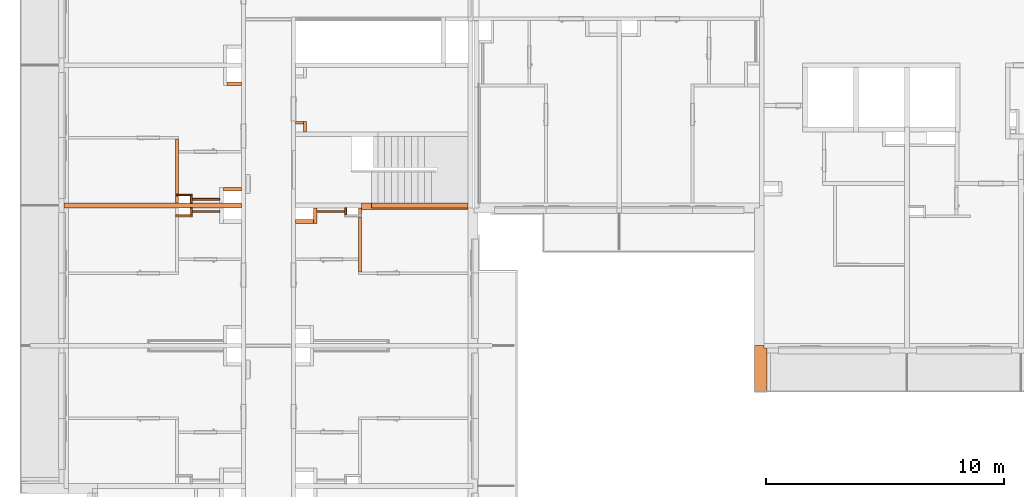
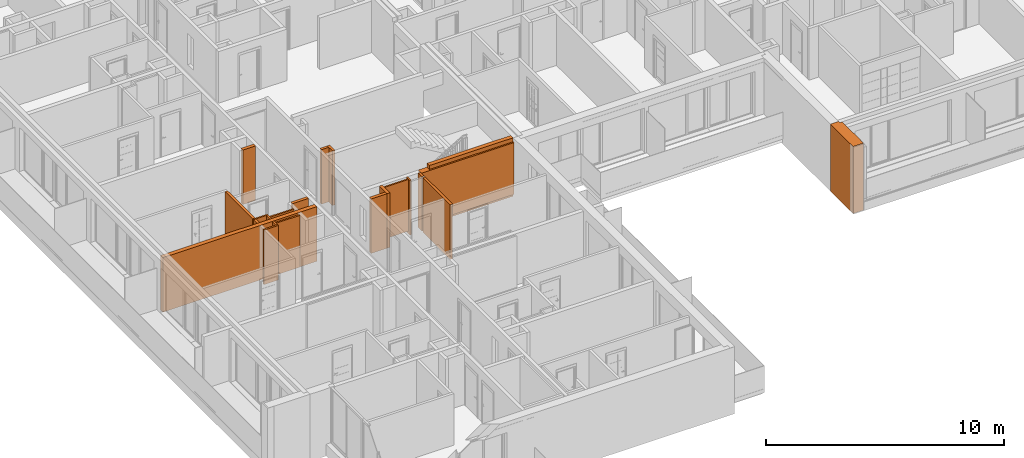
# One storey, part 54 of 67: 19 proxies, 1 opening.
"""IFC2X3 building model written with IfcOpenShell, lengths in millimetres."""

import ifcopenshell
import ifcopenshell.guid

model = None  # the IFC model being written
_history = None  # IfcOwnerHistory: only IFC2X3 demands one
_inside = {}  # id of a spatial element -> (the spatial element, [elements in it])
_under = {}  # id of a project, library or spatial element -> (it, [spatial elements below it])
_declared = {}  # id of a project -> (the project, [libraries it declares])
_typed = {}  # id of a type object -> (the type object, [elements of that type])
_made_of = {}  # id of a material, layer set ... -> (it, [elements and type objects made of it])


def new_model(schema):
    """Start an empty IFC model of exactly this schema.

    Asked for "IFC4X3", IfcOpenShell would pick the latest addendum, in which some entities
    have other attributes; the version numbers below select the first issue.
    IFC2X3 requires an IfcOwnerHistory on every rooted entity: one is made here for all.
    """
    global model, _history
    if schema == "IFC4X3":
        model = ifcopenshell.file(schema_version=(4, 3, 0, 0))
    else:
        model = ifcopenshell.file(schema=schema)
    _inside.clear()
    _under.clear()
    _declared.clear()
    _typed.clear()
    _made_of.clear()
    _history = None
    if model.schema == "IFC2X3":
        org = make("IfcOrganization", Name="unknown")
        user = make(
            "IfcPersonAndOrganization",
            ThePerson=make("IfcPerson", FamilyName="unknown"),
            TheOrganization=org,
        )
        app = make(
            "IfcApplication",
            ApplicationDeveloper=org,
            Version="unknown",
            ApplicationFullName="unknown",
            ApplicationIdentifier="unknown",
        )
        _history = make(
            "IfcOwnerHistory",
            OwningUser=user,
            OwningApplication=app,
            ChangeAction="ADDED",
            CreationDate=0,
        )
    return model


def make(cls, **values):
    """One entity of the class cls with the attributes given. An attribute that is None is left unset."""
    return model.create_entity(
        cls, **{name: value for name, value in values.items() if value is not None}
    )


def entity(cls, *values):
    """Any entity or typed value of the class cls, its attributes in the order of the schema. None: left unset."""
    e = model.create_entity(cls)
    for i, value in enumerate(values):
        if value is not None:
            e[i] = value
    return e


def rooted(cls, **values):
    """An entity with a GlobalId (a new one), such as an element, a storey or a relation."""
    return make(cls, GlobalId=ifcopenshell.guid.new(), OwnerHistory=_history, **values)


def si_unit(unit_type, name, prefix=None):
    """IfcSIUnit, for example si_unit("LENGTHUNIT", "METRE", prefix="MILLI")."""
    return make("IfcSIUnit", UnitType=unit_type, Prefix=prefix, Name=name)


def converted_unit(unit_type, name, factor, base, dimensions=None, offset=None):
    """IfcConversionBasedUnit, such as the inch: factor (a typed value) times the base unit."""
    return make(
        "IfcConversionBasedUnit"
        if offset is None
        else "IfcConversionBasedUnitWithOffset",
        ConversionOffset=offset,
        Dimensions=None
        if dimensions is None
        else entity("IfcDimensionalExponents", *dimensions),
        UnitType=unit_type,
        Name=name,
        ConversionFactor=make(
            "IfcMeasureWithUnit", ValueComponent=factor, UnitComponent=base
        ),
    )


def derived_unit(unit_type, elements):
    """IfcDerivedUnit: a product of units, each with its exponent."""
    return make(
        "IfcDerivedUnit",
        Elements=[
            make("IfcDerivedUnitElement", Unit=unit, Exponent=power)
            for unit, power in elements
        ],
        UnitType=unit_type,
    )


def money_unit(currency):
    """IfcMonetaryUnit."""
    return make("IfcMonetaryUnit", Currency=currency)


def assignment(units):
    """IfcUnitAssignment: the units of a project."""
    return None if units is None else make("IfcUnitAssignment", Units=units)


def point(xyz):
    """IfcCartesianPoint."""
    return None if xyz is None else make("IfcCartesianPoint", Coordinates=xyz)


def direction(xyz):
    """IfcDirection."""
    return None if xyz is None else make("IfcDirection", DirectionRatios=xyz)


def frame(location, z_axis=None, x_axis=None):
    """IfcAxis2Placement3D, a coordinate frame: its origin and axes. An axis left out is left unset."""
    return make(
        "IfcAxis2Placement3D",
        Location=point(location),
        Axis=direction(z_axis),
        RefDirection=direction(x_axis),
    )


def frame_2d(location, x_axis=None):
    """IfcAxis2Placement2D, a coordinate frame in the plane: its origin and x axis."""
    return make(
        "IfcAxis2Placement2D", Location=point(location), RefDirection=direction(x_axis)
    )


def origin_with_axes():
    """The frame at (0, 0, 0) with the z axis (0, 0, 1) and the x axis (1, 0, 0) written out."""
    return frame((0.0, 0.0, 0.0), z_axis=(0.0, 0.0, 1.0), x_axis=(1.0, 0.0, 0.0))


def origin_2d_with_axis():
    """The frame at (0, 0) in the plane with the x axis (1, 0) written out."""
    return frame_2d((0.0, 0.0), x_axis=(1.0, 0.0))


def place(relative_to, where):
    """IfcLocalPlacement: puts the frame where relative to a parent placement (None: the world)."""
    return make(
        "IfcLocalPlacement", PlacementRelTo=relative_to, RelativePlacement=where
    )


def context(
    kind, dimensions, precision=None, world=None, true_north=None, identifier=None
):
    """IfcGeometricRepresentationContext, for example the 3D "Model" context."""
    return make(
        "IfcGeometricRepresentationContext",
        ContextIdentifier=identifier,
        ContextType=kind,
        CoordinateSpaceDimension=dimensions,
        Precision=precision,
        WorldCoordinateSystem=world,
        TrueNorth=true_north,
    )


def subcontext(parent, identifier, kind, view, scale=None):
    """IfcGeometricRepresentationSubContext, for example "Body" below "Model"."""
    return make(
        "IfcGeometricRepresentationSubContext",
        ContextIdentifier=identifier,
        ContextType=kind,
        ParentContext=parent,
        TargetScale=scale,
        TargetView=view,
    )


def project(units=None, contexts=None):
    """IfcProject with its units and contexts."""
    return rooted(
        "IfcProject",
        Name="project",
        RepresentationContexts=contexts,
        UnitsInContext=assignment(units),
    )


def spatial(cls, under=None, at=None, **own):
    """A site, building, storey or space (cls), placed at a placement, below another one or the project."""
    s = rooted(cls, ObjectPlacement=at, **own)
    if under is not None:
        _under.setdefault(under.id(), (under, []))[1].append(s)
    return s


def profile(cls, at=None, kind="AREA", **sizes):
    """A parametric profile (cls). Its sizes go by their IFC names, for example OverallWidth=200.0."""
    return make(cls, ProfileType=kind, Position=at, **sizes)


def rectangle(**sizes):
    """IfcRectangleProfileDef."""
    return profile("IfcRectangleProfileDef", **sizes)


def extrude(swept, where, along, depth):
    """IfcExtrudedAreaSolid: the profile swept, set in the frame where, extruded along a direction by depth."""
    return make(
        "IfcExtrudedAreaSolid",
        SweptArea=swept,
        Position=where,
        ExtrudedDirection=direction(along),
        Depth=depth,
    )


def faces_of(points, faces, orient=None, outer=None):
    """IfcFace entities. A face is a list of loops; a loop is a list of indices into points, from 0.

    orient and outer hold one flag for each loop. By default every Orientation is true, the
    first loop of a face is its IfcFaceOuterBound and the others are IfcFaceBound.
    """
    made = []
    for i, loops in enumerate(faces):
        bounds = []
        for j, loop in enumerate(loops):
            is_outer = j == 0 if outer is None else outer[i][j]
            bounds.append(
                make(
                    "IfcFaceOuterBound" if is_outer else "IfcFaceBound",
                    Bound=make("IfcPolyLoop", Polygon=[points[k] for k in loop]),
                    Orientation=True if orient is None else orient[i][j],
                )
            )
        made.append(make("IfcFace", Bounds=bounds))
    return made


def faceted_brep(points, faces, orient=None, outer=None, voids=None):
    """IfcFacetedBrep: a solid bounded by flat faces; with voids (closed shells), ...WithVoids."""
    shared = [point(p) for p in points]
    hull = make("IfcClosedShell", CfsFaces=faces_of(shared, faces, orient, outer))
    if voids is None:
        return make("IfcFacetedBrep", Outer=hull)
    return make(
        "IfcFacetedBrepWithVoids",
        Outer=hull,
        Voids=[
            make(cls, CfsFaces=faces_of(shared, fs, o, b)) for cls, fs, o, b in voids
        ],
    )


def shape(context_of_items, identifier, shape_type, items):
    """IfcShapeRepresentation: the items that make up one representation, for example the "Body"."""
    return make(
        "IfcShapeRepresentation",
        ContextOfItems=context_of_items,
        RepresentationIdentifier=identifier,
        RepresentationType=shape_type,
        Items=items,
    )


def material(Name=None, Category=None):
    """IfcMaterial."""
    return make("IfcMaterial", Name=Name, Category=Category)


def material_list(materials):
    """IfcMaterialList."""
    return make("IfcMaterialList", Materials=materials)


def made_of(thing, what):
    """Note that an element or type object is made of a material, layer set ...; save() writes the relation."""
    if what is not None:
        _made_of.setdefault(what.id(), (what, []))[1].append(thing)
    return thing


def type_object(cls, material=None, **own):
    """A type object (cls), such as IfcWallType, which elements share."""
    return made_of(rooted(cls, **own), material)


def element(
    cls,
    number,
    at=None,
    inside=None,
    cuts=None,
    type_object=None,
    material=None,
    context=None,
    identifier="Body",
    shape_type=None,
    held_by="IfcProductDefinitionShape",
    body=None,
    shapes=None,
    **own,
):
    """One element of the class cls, such as IfcWall. Its Tag is "e" and its number.

    at: its placement. inside: the storey or other place that contains it. cuts: it is an
    opening in that element (IfcRelVoidsElement). A single representation is given by context,
    identifier, shape_type and body (its items); several are given by shapes. held_by: the class
    of the entity that holds the representations. save() writes the other relations.
    """
    e = rooted(cls, Tag="e%d" % number, ObjectPlacement=at, **own)
    if body is not None:
        shapes = [shape(context, identifier, shape_type, body)]
    if shapes is not None:
        e.Representation = make(held_by, Representations=shapes)
    if inside is not None:
        _inside.setdefault(inside.id(), (inside, []))[1].append(e)
    if cuts is not None:
        rooted(
            "IfcRelVoidsElement", RelatingBuildingElement=cuts, RelatedOpeningElement=e
        )
    if type_object is not None:
        _typed.setdefault(type_object.id(), (type_object, []))[1].append(e)
    return made_of(e, material)


def aggregate(whole, parts):
    """IfcRelAggregates: a whole, such as a stair, and the parts it consists of."""
    return rooted("IfcRelAggregates", RelatingObject=whole, RelatedObjects=parts)


def save(model, path):
    """Write the relations noted so far, then the file.

    IfcRelAggregates (storeys below a building ...), IfcRelContainedInSpatialStructure (elements
    in a storey), IfcRelDefinesByType, IfcRelAssociatesMaterial and IfcRelDeclares: one each for
    every whole, place, type object, material and project.
    """
    for whole, parts in _under.values():
        aggregate(whole, parts)
    for where, things in _inside.values():
        rooted(
            "IfcRelContainedInSpatialStructure",
            RelatedElements=things,
            RelatingStructure=where,
        )
    for kind, things in _typed.values():
        rooted("IfcRelDefinesByType", RelatedObjects=things, RelatingType=kind)
    for what, things in _made_of.values():
        rooted("IfcRelAssociatesMaterial", RelatedObjects=things, RelatingMaterial=what)
    for by, libraries in _declared.values():
        rooted("IfcRelDeclares", RelatingContext=by, RelatedDefinitions=libraries)
    model.write(path)


model = new_model("IFC2X3")

# Units and contexts
model_context = context("Model", 3, precision=0.01, world=origin_with_axes(), true_north=direction((0.34421633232, 0.938890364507)))
body_context = subcontext(model_context, "Body", "Model", "MODEL_VIEW")
ifc_project = project(units=[si_unit("LENGTHUNIT", "METRE", prefix="MILLI"), si_unit("AREAUNIT", "SQUARE_METRE"), si_unit("VOLUMEUNIT", "CUBIC_METRE"), converted_unit("PLANEANGLEUNIT", "DEGREE", entity("IfcPlaneAngleMeasure", 0.0174532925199), si_unit("PLANEANGLEUNIT", "RADIAN"), dimensions=[0, 0, 0, 0, 0, 0, 0]), si_unit("SOLIDANGLEUNIT", "STERADIAN"), money_unit("USD"), converted_unit("TIMEUNIT", "Year", entity("IfcTimeMeasure", 31556926.0), si_unit("TIMEUNIT", "SECOND"), dimensions=[0, 0, 1, 0, 0, 0, 0]), si_unit("MASSUNIT", "GRAM", prefix="KILO"), si_unit("THERMODYNAMICTEMPERATUREUNIT", "DEGREE_CELSIUS"), si_unit("LUMINOUSINTENSITYUNIT", "LUMEN"), si_unit("ENERGYUNIT", "JOULE", prefix="MEGA"), derived_unit("THERMALCONDUCTANCEUNIT", [(si_unit("POWERUNIT", "WATT"), 1), (si_unit("LENGTHUNIT", "METRE"), -1), (si_unit("THERMODYNAMICTEMPERATUREUNIT", "KELVIN"), -1)]), derived_unit("SPECIFICHEATCAPACITYUNIT", [(si_unit("ENERGYUNIT", "JOULE"), 1), (si_unit("MASSUNIT", "GRAM", prefix="KILO"), -1), (si_unit("THERMODYNAMICTEMPERATUREUNIT", "KELVIN"), -1)]), derived_unit("MASSDENSITYUNIT", [(si_unit("MASSUNIT", "GRAM", prefix="KILO"), 1), (si_unit("VOLUMEUNIT", "CUBIC_METRE"), -1)])], contexts=[model_context])

# Site, building, storey
site_placement = place(None, origin_with_axes())
site = spatial("IfcSite", under=ifc_project, at=site_placement, Name="USTRONIE MORSKIE", CompositionType="ELEMENT")
building_placement = place(site_placement, origin_with_axes())
building = spatial("IfcBuilding", under=site, at=building_placement, Name="Budynek", CompositionType="ELEMENT")
storey_placement = place(building_placement, frame((0.0, 0.0, 4000.0), z_axis=(0.0, 0.0, 1.0), x_axis=(1.0, 0.0, 0.0)))
storey = spatial("IfcBuildingStorey", under=building, at=storey_placement, Name="PIĘTRO 1", CompositionType="ELEMENT", Elevation=4000.0)

# Proxies
ifc_material_1 = material(Name="Bloczki silikatowe")
building_element_proxy_type_1 = type_object("IfcBuildingElementProxyType", Name="Bloczki silikatowe 120", PredefinedType="NOTDEFINED")
for number, where, z_axis, x_axis, name in (
    (1, (362417.920919, 726901.199036, -160.0), (0.0, 0.0, 1.0), (0.0, -1.0, 0.0), "SW-04"),
    (2, (354717.920919, 726901.199036, -160.0), (0.0, 0.0, 1.0), (0.0, 1.0, 0.0), "SW-04"),
):
    element("IfcBuildingElementProxy", number, at=place(storey_placement, frame(where, z_axis=z_axis, x_axis=x_axis)), inside=storey, type_object=building_element_proxy_type_1, material=ifc_material_1, Name=name, context=body_context, shape_type="Brep", body=[
        faceted_brep([(2790.01935038, 60.0, 0.0), (2790.01935038, -60.0, 0.0), (480.01915523, -60.0, 0.0), (480.01915523, 60.0, 0.0), (2790.01935038, 60.0, 2800.0), (2790.01935038, -60.0, 2800.0), (480.01915523, -60.0, 2800.0), (480.01915523, 60.0, 2800.0)], [[[0, 1, 2, 3]], [[1, 0, 4, 5]], [[1, 5, 6, 2]], [[7, 3, 2, 6]], [[4, 0, 3, 7]], [[5, 4, 7, 6]]]),
        faceted_brep([(400.01915523, 60.0, 0.0), (400.01915523, -60.0, 0.0), (99.9999999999, -60.0, 0.0), (99.9999999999, 60.0, 0.0), (400.01915523, 60.0, 2800.0), (400.01915523, -60.0, 2800.0), (99.9999999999, -60.0, 2800.0), (99.9999999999, 60.0, 2800.0)], [[[0, 1, 2, 3]], [[1, 0, 4, 5]], [[1, 5, 6, 2]], [[7, 3, 2, 6]], [[4, 0, 3, 7]], [[5, 4, 7, 6]]]),
    ])
proxy_1_placement = place(storey_placement, frame((360047.920919, 729901.198865, -160.0), z_axis=(0.0, 0.0, 1.0), x_axis=(0.0, 1.0, 0.0)))
element("IfcBuildingElementProxy", 3, at=proxy_1_placement, inside=storey, type_object=building_element_proxy_type_1, material=ifc_material_1, Name="SW-04", context=body_context, shape_type="Brep", body=[
    faceted_brep([(540.000171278, -120.0, 2800.0), (540.000171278, 0.0, 2800.0), (100.000152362, 0.0, 2800.0), (100.000147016, -120.0, 2800.0), (540.000171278, -120.0, 0.0), (540.000171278, 0.0, 0.0), (100.000152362, 0.0, 0.0), (100.000147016, -120.0, 0.0)], [[[0, 1, 2, 3]], [[1, 0, 4, 5]], [[1, 5, 6, 2]], [[7, 3, 2, 6]], [[4, 0, 3, 7]], [[5, 4, 7, 6]]]),
])
proxy_2_placement = place(storey_placement, frame((360047.920919, 730321.199036, -160.0), z_axis=(0.0, 0.0, 1.0), x_axis=(-1.0, 0.0, 0.0)))
element("IfcBuildingElementProxy", 4, at=proxy_2_placement, inside=storey, type_object=building_element_proxy_type_1, material=ifc_material_1, Name="SW-04", context=body_context, shape_type="Brep", body=[
    faceted_brep([(350.0, -120.0, 2800.0), (350.0, 0.0, 2800.0), (0.0, 0.0, 2800.0), (0.0, -120.0, 2800.0), (350.0, -120.0, 0.0), (350.0, 0.0, 0.0), (0.0, 0.0, 0.0), (0.0, -120.0, 0.0)], [[[0, 1, 2, 3]], [[1, 0, 4, 5]], [[1, 5, 6, 2]], [[7, 3, 2, 6]], [[4, 0, 3, 7]], [[5, 4, 7, 6]]]),
])
ifc_material_2 = material(Name="Płyta GK")
ifc_material_3 = material(Name="-Pustka powietrzna")
ifc_material_list_1 = material_list([ifc_material_2, ifc_material_2, ifc_material_3])
building_element_proxy_type_2 = type_object("IfcBuildingElementProxyType", Name="330-SD GK 2-warstwy 75", PredefinedType="NOTDEFINED")
proxy_3_placement = place(storey_placement, frame((355317.920919, 727171.200737, -180.0), z_axis=(0.0, 0.0, 1.0), x_axis=(1.0, 0.0, 0.0)))
element("IfcBuildingElementProxy", 5, at=proxy_3_placement, inside=storey, type_object=building_element_proxy_type_2, material=ifc_material_list_1, Name="Ściana-009", context=body_context, shape_type="Brep", body=[
    faceted_brep([(1199.99909883, 12.5, 165.0), (1199.99909883, 25.0, 165.0), (1199.99909883, 25.0, 2820.0), (1199.99909883, 12.5, 2820.0), (40.0, 25.0, 165.0), (40.0, 12.5, 165.0), (40.0, 25.0, 2820.0), (40.0, 12.5, 2820.0)], [[[0, 1, 2, 3]], [[4, 1, 0, 5]], [[1, 4, 6, 2]], [[2, 6, 7, 3]], [[5, 0, 3, 7]], [[4, 5, 7, 6]]]),
    faceted_brep([(1199.99909883, 0.0, 165.0), (1199.99909883, 12.5, 165.0), (1199.99909883, 12.5, 2820.0), (1199.99909883, 0.0, 2820.0), (40.0, 12.5, 165.0), (40.0, 0.0, 165.0), (40.0, 12.5, 2820.0), (40.0, 0.0, 2820.0)], [[[0, 1, 2, 3]], [[4, 1, 0, 5]], [[1, 4, 6, 2]], [[2, 6, 7, 3]], [[5, 0, 3, 7]], [[4, 5, 7, 6]]]),
    faceted_brep([(1199.99909883, -50.0, 180.0), (1199.99909883, 0.0, 180.0), (1199.99909883, 0.0, 2820.0), (1199.99909883, -50.0, 2820.0), (40.0, 0.0, 180.0), (40.0, -50.0, 180.0), (40.0, 0.0, 2820.0), (40.0, -50.0, 2820.0)], [[[0, 1, 2, 3]], [[4, 1, 0, 5]], [[1, 4, 6, 2]], [[2, 6, 7, 3]], [[5, 0, 3, 7]], [[4, 5, 7, 6]]]),
])
ifc_material_list_2 = material_list([ifc_material_3, ifc_material_2, ifc_material_2])
proxy_4_placement = place(storey_placement, frame((360542.92182, 726631.200807, -180.0), z_axis=(0.0, 0.0, 1.0), x_axis=(1.0, 0.0, 0.0)))
element("IfcBuildingElementProxy", 6, at=proxy_4_placement, inside=storey, type_object=building_element_proxy_type_2, material=ifc_material_list_2, Name="Ściana-009", context=body_context, shape_type="Brep", body=[
    faceted_brep([(1234.99909883, 0.0, 180.0), (1234.99909883, 50.0, 180.0), (1234.99909883, 50.0, 2820.0), (1234.99909883, 0.0, 2820.0), (75.0, 50.0, 180.0), (75.0, 0.0, 180.0), (75.0, 50.0, 2820.0), (75.0, 0.0, 2820.0)], [[[0, 1, 2, 3]], [[4, 1, 0, 5]], [[1, 4, 6, 2]], [[7, 3, 2, 6]], [[5, 0, 3, 7]], [[4, 5, 7, 6]]]),
    faceted_brep([(1234.99909883, -12.5, 165.0), (1234.99909883, 0.0, 165.0), (1234.99909883, 0.0, 2820.0), (1234.99909883, -12.5, 2820.0), (75.0, 0.0, 165.0), (75.0, -12.5, 165.0), (75.0, 0.0, 2820.0), (75.0, -12.5, 2820.0)], [[[0, 1, 2, 3]], [[4, 1, 0, 5]], [[1, 4, 6, 2]], [[7, 3, 2, 6]], [[5, 0, 3, 7]], [[4, 5, 7, 6]]]),
    faceted_brep([(1234.99909883, -25.0, 165.0), (1234.99909883, -12.5, 165.0), (1234.99909883, -12.5, 2820.0), (1234.99909883, -25.0, 2820.0), (75.0, -12.5, 165.0), (75.0, -25.0, 165.0), (75.0, -12.5, 2820.0), (75.0, -25.0, 2820.0)], [[[0, 1, 2, 3]], [[4, 1, 0, 5]], [[1, 4, 6, 2]], [[7, 3, 2, 6]], [[5, 0, 3, 7]], [[4, 5, 7, 6]]]),
])
proxy_5_placement = place(storey_placement, frame((355317.920919, 726631.200807, -180.0), z_axis=(0.0, 0.0, 1.0), x_axis=(1.0, 0.0, 0.0)))
element("IfcBuildingElementProxy", 7, at=proxy_5_placement, inside=storey, type_object=building_element_proxy_type_2, material=ifc_material_list_2, Name="Ściana-009", context=body_context, shape_type="Brep", body=[
    faceted_brep([(1199.99909883, 0.0, 180.0), (1199.99909883, 50.0, 180.0), (1199.99909883, 50.0, 2820.0), (1199.99909883, 0.0, 2820.0), (40.0, 50.0, 180.0), (40.0, 0.0, 180.0), (40.0, 50.0, 2820.0), (40.0, 0.0, 2820.0)], [[[0, 1, 2, 3]], [[4, 1, 0, 5]], [[1, 4, 6, 2]], [[2, 6, 7, 3]], [[5, 0, 3, 7]], [[4, 5, 7, 6]]]),
    faceted_brep([(1199.99909883, -12.5, 165.0), (1199.99909883, 0.0, 165.0), (1199.99909883, 0.0, 2820.0), (1199.99909883, -12.5, 2820.0), (40.0, 0.0, 165.0), (40.0, -12.5, 165.0), (40.0, 0.0, 2820.0), (40.0, -12.5, 2820.0)], [[[0, 1, 2, 3]], [[4, 1, 0, 5]], [[1, 4, 6, 2]], [[2, 6, 7, 3]], [[5, 0, 3, 7]], [[4, 5, 7, 6]]]),
    faceted_brep([(1199.99909883, -25.0, 165.0), (1199.99909883, -12.5, 165.0), (1199.99909883, -12.5, 2820.0), (1199.99909883, -25.0, 2820.0), (40.0, -12.5, 165.0), (40.0, -25.0, 165.0), (40.0, -12.5, 2820.0), (40.0, -25.0, 2820.0)], [[[0, 1, 2, 3]], [[4, 1, 0, 5]], [[1, 4, 6, 2]], [[2, 6, 7, 3]], [[5, 0, 3, 7]], [[4, 5, 7, 6]]]),
])
building_element_proxy_type_3 = type_object("IfcBuildingElementProxyType", Name="Bloczki silikatowe 80", PredefinedType="NOTDEFINED")
proxy_6_placement = place(storey_placement, frame((355317.920919, 726901.199036, -160.0), z_axis=(0.0, 0.0, 1.0), x_axis=(0.0, 1.0, 0.0)))
element("IfcBuildingElementProxy", 8, at=proxy_6_placement, inside=storey, type_object=building_element_proxy_type_3, material=ifc_material_1, Name="Ściana-010", context=body_context, shape_type="Brep", body=[
    faceted_brep([(400.01915523, 40.0, 0.0), (400.01915523, -40.0, 0.0), (100.0, -40.0, 0.0), (100.0, 40.0, 0.0), (400.01915523, 40.0, 2800.0), (400.01915523, -40.0, 2800.0), (100.0, -40.0, 2800.0), (100.0, 40.0, 2800.0)], [[[0, 1, 2, 3]], [[1, 0, 4, 5]], [[1, 5, 6, 2]], [[7, 3, 2, 6]], [[4, 0, 3, 7]], [[5, 4, 7, 6]]]),
])
proxy_7_placement = place(storey_placement, frame((355317.920919, 726901.199036, -160.0), z_axis=(0.0, 0.0, 1.0), x_axis=(0.0, -1.0, 0.0)))
element("IfcBuildingElementProxy", 9, at=proxy_7_placement, inside=storey, type_object=building_element_proxy_type_3, material=ifc_material_1, Name="Ściana-010", context=body_context, shape_type="Brep", body=[
    faceted_brep([(400.01915523, 40.0, 0.0), (100.0, 40.0, 0.0), (100.0, 40.0, 2800.0), (400.01915523, 40.0, 2800.0), (400.01915523, -40.0, 0.0), (100.0, -40.0, 0.0), (100.0, -40.0, 2800.0), (400.01915523, -40.0, 2800.0)], [[[0, 1, 2, 3]], [[4, 5, 1, 0]], [[5, 6, 2, 1]], [[3, 2, 6, 7]], [[4, 0, 3, 7]], [[7, 6, 5, 4]]]),
])
proxy_8_placement = place(storey_placement, frame((354717.920919, 727341.218191, -160.0), z_axis=(0.0, 0.0, 1.0), x_axis=(1.0, 0.0, 0.0)))
element("IfcBuildingElementProxy", 10, at=proxy_8_placement, inside=storey, type_object=building_element_proxy_type_3, material=ifc_material_1, Name="Ściana-009", context=body_context, shape_type="Brep", body=[
    faceted_brep([(640.0, 40.0, 0.0), (640.0, -40.0, 0.0), (-60.0, -40.0, 0.0), (-60.0, 40.0, 0.0), (640.0, 40.0, 2800.0), (640.0, -40.0, 2800.0), (-60.0, -40.0, 2800.0), (-60.0, 40.0, 2800.0)], [[[0, 1, 2, 3]], [[1, 0, 4, 5]], [[1, 5, 6, 2]], [[7, 3, 2, 6]], [[4, 0, 3, 7]], [[5, 4, 7, 6]]]),
])
proxy_9_placement = place(storey_placement, frame((354717.920919, 726461.179881, -160.0), z_axis=(0.0, 0.0, 1.0), x_axis=(1.0, 0.0, 0.0)))
element("IfcBuildingElementProxy", 11, at=proxy_9_placement, inside=storey, type_object=building_element_proxy_type_3, material=ifc_material_1, Name="Ściana-009", context=body_context, shape_type="Brep", body=[
    faceted_brep([(640.0, -40.0, 2800.0), (640.0, 40.0, 2800.0), (-60.0, 40.0, 2800.0), (-60.0, -40.0, 2800.0), (640.0, -40.0, 0.0), (640.0, 40.0, 0.0), (-60.0, 40.0, 0.0), (-60.0, -40.0, 0.0)], [[[0, 1, 2, 3]], [[1, 0, 4, 5]], [[1, 5, 6, 2]], [[7, 3, 2, 6]], [[4, 0, 3, 7]], [[5, 4, 7, 6]]]),
])
proxy_10_placement = place(storey_placement, frame((361817.920919, 726901.199036, -160.0), z_axis=(0.0, 0.0, 1.0), x_axis=(0.0, -1.0, 0.0)))
element("IfcBuildingElementProxy", 12, at=proxy_10_placement, inside=storey, type_object=building_element_proxy_type_3, material=ifc_material_1, Name="Ściana-010", context=body_context, shape_type="Brep", body=[
    faceted_brep([(400.01915523, 40.0, 0.0), (400.01915523, -40.0, 0.0), (100.0, -40.0, 0.0), (100.0, 40.0, 0.0), (400.01915523, 40.0, 2800.0), (400.01915523, -40.0, 2800.0), (100.0, -40.0, 2800.0), (100.0, 40.0, 2800.0)], [[[0, 1, 2, 3]], [[1, 0, 4, 5]], [[1, 5, 6, 2]], [[7, 3, 2, 6]], [[4, 0, 3, 7]], [[5, 4, 7, 6]]]),
])
building_element_proxy_type_4 = type_object("IfcBuildingElementProxyType", Name="Bloczki silikatowe 150", PredefinedType="NOTDEFINED")
proxy_11_placement = place(storey_placement, frame((360542.92182, 726901.199036, -160.0), z_axis=(0.0, 0.0, 1.0), x_axis=(0.0, -1.0, 0.0)))
element("IfcBuildingElementProxy", 13, at=proxy_11_placement, inside=storey, type_object=building_element_proxy_type_4, material=ifc_material_1, Name="Ściana-009", context=body_context, shape_type="Brep", body=[
    faceted_brep([(750.000884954, 75.0, 0.0), (750.000884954, -75.0, 0.0), (100.0, -75.0, 0.0), (100.0, 75.0, 0.0), (750.000884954, 75.0, 2800.0), (750.000884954, -75.0, 2800.0), (100.0, -75.0, 2800.0), (100.0, 75.0, 2800.0)], [[[0, 1, 2, 3]], [[1, 0, 4, 5]], [[1, 5, 6, 2]], [[7, 3, 2, 6]], [[4, 0, 3, 7]], [[5, 4, 7, 6]]]),
])
proxy_12_placement = place(storey_placement, frame((356817.920919, 732101.199036, -160.0), z_axis=(0.0, 0.0, 1.0), x_axis=(1.0, 0.0, 0.0)))
element("IfcBuildingElementProxy", 14, at=proxy_12_placement, inside=storey, type_object=building_element_proxy_type_4, material=ifc_material_1, Name="SW-03", context=body_context, shape_type="Brep", body=[
    faceted_brep([(620.0, -150.0, 2800.0), (620.0, 0.0, 2800.0), (0.0, 0.0, 2800.0), (0.0, -150.0, 2800.0), (620.0, -150.0, 0.0), (620.0, 0.0, 0.0), (0.0, 0.0, 0.0), (0.0, -150.0, 0.0)], [[[0, 1, 2, 3]], [[1, 0, 4, 5]], [[1, 5, 6, 2]], [[7, 3, 2, 6]], [[4, 0, 3, 7]], [[5, 4, 7, 6]]]),
])
for number, where, z_axis, x_axis in (
    (15, (360542.92182, 726226.198151, -160.0), (0.0, 0.0, 1.0), (-1.0, 0.0, 0.0)),
    (16, (356592.920018, 727576.199909, -160.0), (0.0, 0.0, 1.0), (1.0, 0.0, 0.0)),
):
    element("IfcBuildingElementProxy", number, at=place(storey_placement, frame(where, z_axis=z_axis, x_axis=x_axis)), inside=storey, type_object=building_element_proxy_type_4, material=ifc_material_1, Name="Ściana-009", context=body_context, shape_type="Brep", body=[
        faceted_brep([(845.00090117, 75.0, 0.0), (845.00090117, -75.0, 0.0), (75.0, -75.0, 0.0), (75.0, 75.0, 0.0), (845.00090117, 75.0, 2800.0), (845.00090117, -75.0, 2800.0), (75.0, -75.0, 2800.0), (75.0, 75.0, 2800.0)], [[[0, 1, 2, 3]], [[1, 0, 4, 5]], [[1, 5, 6, 2]], [[7, 3, 2, 6]], [[4, 0, 3, 7]], [[5, 4, 7, 6]]]),
    ])
ifc_material_4 = material(Name="Beton konstrukcyjny B25")
building_element_proxy_type_5 = type_object("IfcBuildingElementProxyType", Name="Beton konstrukcyjny B25 200", PredefinedType="NOTDEFINED")
proxy_13_placement = place(storey_placement, frame((350067.920919, 726901.199036, -160.0), z_axis=(0.0, 0.0, 1.0), x_axis=(1.0, 0.0, 0.0)))
element("IfcBuildingElementProxy", 17, at=proxy_13_placement, inside=storey, type_object=building_element_proxy_type_5, material=ifc_material_4, Name="SW-01", context=body_context, shape_type="Brep", body=[
    faceted_brep([(-100.0, -100.0, 2800.0), (7370.0, -100.0, 2800.0), (7370.0, 100.0, 2800.0), (-100.0, 100.0, 2800.0), (-100.0, -100.0, 0.0), (7370.0, -100.0, 0.0), (7370.0, 100.0, 0.0), (-100.0, 100.0, 0.0)], [[[0, 1, 2, 3]], [[4, 5, 1, 0]], [[6, 2, 1, 5]], [[3, 2, 6, 7]], [[7, 4, 0, 3]], [[7, 6, 5, 4]]]),
])
ifc_material_5 = material(Name="Izolacja akustyczna")
ifc_material_list_3 = material_list([ifc_material_2, ifc_material_5, ifc_material_4])
building_element_proxy_type_6 = type_object("IfcBuildingElementProxyType", Name="20+5 AKU 275", PredefinedType="NOTDEFINED")
proxy_14_placement = place(storey_placement, frame((367067.920919, 726901.199036, -160.0), z_axis=(0.0, 0.0, 1.0), x_axis=(-1.0, 0.0, 0.0)))
element("IfcBuildingElementProxy", 18, at=proxy_14_placement, inside=storey, type_object=building_element_proxy_type_6, material=ifc_material_list_3, Name="Œciana-007", context=body_context, shape_type="Brep", body=[
    faceted_brep([(99.9989883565, 174.999999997, 145.0), (99.9990379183, 149.999999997, 145.0), (99.9990379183, 149.999999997, 2800.0), (99.9989883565, 174.999999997, 2800.0), (4590.0, 175.0, 145.0), (4590.0, 150.0, 145.0), (4590.0, 150.0, 2800.0), (4590.0, 175.0, 2800.0)], [[[0, 1, 2, 3]], [[1, 0, 4, 5]], [[1, 5, 6, 2]], [[3, 2, 6, 7]], [[0, 3, 7, 4]], [[5, 4, 7, 6]]]),
    faceted_brep([(99.9990379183, 149.999999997, 145.0), (99.999137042, 99.9999999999, 145.0), (99.999137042, 99.9999999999, 2800.0), (99.9990379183, 149.999999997, 2800.0), (4171.73913043, 99.999774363, 145.0), (4590.0, 150.0, 145.0), (4590.0, 100.0, 145.0), (4590.0, 100.0, 2800.0), (4171.73913043, 99.9997743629, 2800.0), (4590.0, 150.0, 2800.0)], [[[0, 1, 2, 3]], [[4, 1, 0, 5, 6]], [[1, 4, 6, 7, 8, 2]], [[3, 2, 8, 7, 9]], [[0, 3, 9, 5]], [[6, 5, 9, 7]]]),
    faceted_brep([(4590.0, -100.0, 2800.0), (4171.73913043, -100.0, 2800.0), (4171.73913043, -100.0, 3000.0), (100.000570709, -100.0, 3000.0), (100.000570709, -100.0, 0.0), (4590.0, -100.0, 0.0), (4590.0, 100.0, 2800.0), (4171.73913043, 99.9997743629, 2800.0), (4171.73913043, 99.9997743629, 3000.0), (100.000582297, 100.0, 3000.0), (100.000582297, 100.0, 0.0), (4590.0, 100.0, 0.0)], [[[0, 1, 2, 3, 4, 5]], [[1, 0, 6, 7]], [[8, 2, 1, 7]], [[2, 8, 9, 3]], [[4, 3, 9, 10]], [[10, 11, 5, 4]], [[6, 0, 5, 11]], [[7, 6, 11, 10, 9, 8]]]),
])

# Proxy, opening
ifc_material_6 = material(Name="Tynk zewnętrzny")
ifc_material_7 = material(Name="Wełna ELEW")
ifc_material_list_4 = material_list([ifc_material_6, ifc_material_7, ifc_material_4, ifc_material_7, ifc_material_6])
building_element_proxy_type_7 = type_object("IfcBuildingElementProxyType", Name="BALKON bok 01 520", PredefinedType="NOTDEFINED")
proxy_15_placement = place(storey_placement, frame((379317.920919, 721001.199036, -600.000001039), z_axis=(0.0, 0.0, 1.0), x_axis=(0.0, -1.0, 0.0)))
proxy_15 = element("IfcBuildingElementProxy", 19, at=proxy_15_placement, inside=storey, type_object=building_element_proxy_type_7, material=ifc_material_list_4, Name="Œciana-006", context=body_context, shape_type="Brep", body=[
    faceted_brep([(1949.99981809, 210.0, 0.0), (300.0, 210.0, 8.7865181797e-07), (300.0, 210.0, 3440.00000104), (1949.99981809, 210.0, 3440.00000104), (1949.99981809, 200.0, 0.0), (300.0, 200.0, 8.79165629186e-07), (300.0, 200.0, 3440.00000104), (1949.99981809, 200.0, 3440.00000104)], [[[0, 1, 2, 3]], [[4, 5, 1, 0]], [[5, 6, 2, 1]], [[3, 2, 6, 7]], [[3, 7, 4, 0]], [[7, 6, 5, 4]]]),
    faceted_brep([(100.0, 200.0, 9.80004077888e-07), (100.0, 200.0, 3440.00000104), (1949.99981809, 200.0, 3440.00000104), (1949.99981809, 200.0, 0.0), (100.0, 100.000004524, 3440.00000104), (100.0, 100.000004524, 9.85731496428e-07), (1949.99981809, 100.0, 3440.00000104), (1949.99981809, 100.0, 0.0)], [[[0, 1, 2, 3]], [[4, 1, 0, 5]], [[1, 4, 6, 2]], [[6, 7, 3, 2]], [[5, 0, 3, 7]], [[4, 5, 7, 6]]]),
    faceted_brep([(0.0, -100.0, 0.0), (0.0, 100.0, 0.0), (1949.99981809, 100.0, 0.0), (1949.99981809, -100.0, 0.0), (0.0, -100.0, 3440.00000104), (0.0, 100.0, 3440.00000104), (1949.99981809, 100.0, 3440.00000104), (1949.99981809, -100.0, 3440.00000104)], [[[0, 1, 2, 3]], [[4, 5, 1, 0]], [[1, 5, 6, 2]], [[7, 3, 2, 6]], [[4, 0, 3, 7]], [[5, 4, 7, 6]]]),
    faceted_brep([(0.0, -100.0, 0.0), (1949.99981809, -100.0, 0.0), (1949.99981809, -300.0, 0.0), (0.0, -300.0, 0.0), (0.0, -100.0, 3440.00000104), (1949.99981809, -100.0, 3440.00000104), (1949.99981809, -300.0, 3440.00000104), (0.0, -300.0, 3440.00000104)], [[[0, 1, 2, 3]], [[4, 5, 1, 0]], [[2, 1, 5, 6]], [[3, 2, 6, 7]], [[4, 0, 3, 7]], [[7, 6, 5, 4]]]),
    faceted_brep([(0.0, -300.0, 0.0), (1949.99981809, -300.0, 0.0), (1949.99981809, -310.0, 0.0), (0.0, -310.0, 0.0), (0.0, -300.0, 3440.00000104), (1949.99981809, -300.0, 3440.00000104), (1949.99981809, -310.0, 3440.00000104), (0.0, -310.0, 3440.00000104)], [[[0, 1, 2, 3]], [[4, 5, 1, 0]], [[2, 1, 5, 6]], [[3, 2, 6, 7]], [[4, 0, 3, 7]], [[7, 6, 5, 4]]]),
])
opening_placement = place(proxy_15_placement, frame((1949.99981809, 0.0, 0.0), z_axis=(0.0, 0.0, 1.0), x_axis=(1.0, 0.0, 0.0)))
element("IfcOpeningElement", 20, at=opening_placement, cuts=proxy_15, Name="ZS1", context=body_context, shape_type="SweptSolid", body=[
    extrude(rectangle(XDim=9.99999999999, YDim=50.0000000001, at=origin_2d_with_axis()), frame((-25.0, 205.0, 0.0), z_axis=(0.0, 0.0, 1.0), x_axis=(0.0, -1.0, 0.0)), (0.0, 0.0, 1.0), 3440.00000104),
    extrude(rectangle(XDim=9.99999999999, YDim=250.0, at=origin_2d_with_axis()), frame((-175.0, 205.0, 0.0), z_axis=(0.0, 0.0, 1.0), x_axis=(0.0, -1.0, 0.0)), (0.0, 0.0, 1.0), 3440.00000104),
    extrude(rectangle(XDim=9.99999999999, YDim=50.0000000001, at=origin_2d_with_axis()), frame((-25.0000000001, -305.0, 0.0), z_axis=(0.0, 0.0, 1.0), x_axis=(0.0, -1.0, 0.0)), (0.0, 0.0, 1.0), 3440.00000104),
    extrude(rectangle(XDim=9.99999999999, YDim=250.0, at=origin_2d_with_axis()), frame((-175.0, -305.0, 0.0), z_axis=(0.0, 0.0, 1.0), x_axis=(0.0, -1.0, 0.0)), (0.0, 0.0, 1.0), 3440.00000104),
    extrude(rectangle(XDim=500.0, YDim=50.0000000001, at=origin_2d_with_axis()), frame((-25.0000000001, -50.0, 0.0), z_axis=(0.0, 0.0, 1.0), x_axis=(0.0, -1.0, 0.0)), (0.0, 0.0, 1.0), 3440.00000104),
])

save(model, "model.ifc")
